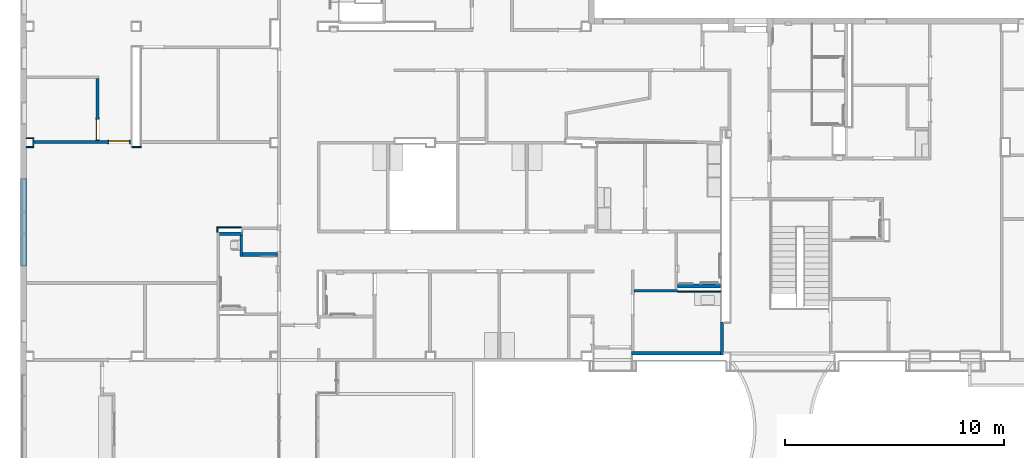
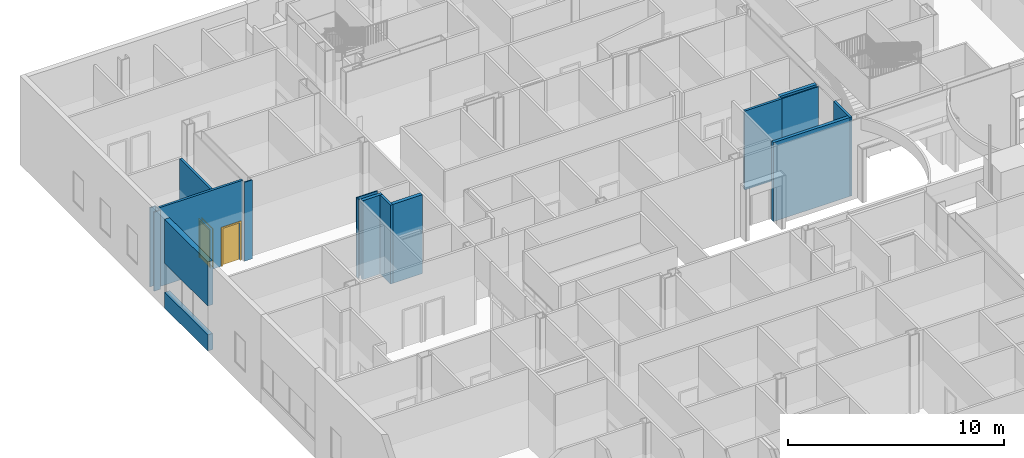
# One storey, part 30 of 82: 18 walls, 2 doors, 2 openings.
"""IFC2X3 building model written with IfcOpenShell, lengths in metres."""

from ifc_helpers import new_model, entity, si_unit, converted_unit, frame, frame_2d, origin, origin_2d_with_axis, place, context, project, spatial, polyline, rectangle, outline, extrude, source, transform, mapped, material, layer, layer_set, layer_usage, type_object, type_shapes, element, fill, save


model = new_model("IFC2X3")

# Units and contexts
model_context = context("Model", 3, precision=1e-09, world=origin())
plan_context = context("Plan", 3, precision=1e-09, world=origin())
ifc_project = project(units=[si_unit("LENGTHUNIT", "METRE"), si_unit("AREAUNIT", "SQUARE_METRE"), si_unit("VOLUMEUNIT", "CUBIC_METRE"), converted_unit("PLANEANGLEUNIT", "DEGREE", entity("IfcRatioMeasure", 0.01745329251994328), si_unit("PLANEANGLEUNIT", "RADIAN"), dimensions=[0, 0, 0, 0, 0, 0, 0]), si_unit("TIMEUNIT", "SECOND")], contexts=[model_context, plan_context])

# Site, building, storey
site_placement = place(None, origin())
site = spatial("IfcSite", under=ifc_project, at=site_placement, Name="Default", CompositionType="ELEMENT")
building_placement = place(site_placement, origin())
building = spatial("IfcBuilding", under=site, at=building_placement, CompositionType="ELEMENT")
storey_placement = place(building_placement, origin())
storey = spatial("IfcBuildingStorey", under=building, at=storey_placement, Name="First Floor", CompositionType="ELEMENT", Elevation=-3.531500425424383e-13)

# Walls
ifc_material_1 = material(Name="Plasterboard")
ifc_layer_1 = layer(ifc_material_1, 0.016)
ifc_material_2 = material(Name="Metal - Stud Layer")
ifc_layer_2 = layer(ifc_material_2, 0.092)
ifc_layer_3 = layer(ifc_material_1, 0.016)
ifc_layer_set_1 = layer_set([ifc_layer_1, ifc_layer_2, ifc_layer_3], Name="Basic Wall:Interior - Partition (92mm Stud)")
ifc_layer_usage_1 = layer_usage(ifc_layer_set_1, "AXIS2", "NEGATIVE", 0.062)
wall_1_placement = place(storey_placement, frame((-20.22800000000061, 36.58899999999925, 0.0), z_axis=(0.0, 0.0, 1.0), x_axis=(0.0, -1.0, 0.0)))
element("IfcWallStandardCase", 1, at=wall_1_placement, inside=storey, material=ifc_layer_usage_1, Name="Basic Wall:Interior - Partition (92mm Stud)", ObjectType="Basic Wall:Interior - Partition (92mm Stud)", context=model_context, shape_type="SweptSolid", body=[
    extrude(rectangle(XDim=1.516999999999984, YDim=0.1239999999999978, at=frame_2d((0.7584999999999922, 0.0), x_axis=(-1.0, 0.0))), origin(), (0.0, 0.0, 1.0), 4.46800000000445),
])
ifc_material_3 = material(Name="Insulation - Insulated Panel")
ifc_layer_4 = layer(ifc_material_3, 0.042)
ifc_material_4 = material(Name="Metal - Firring")
ifc_layer_5 = layer(ifc_material_4, 0.038)
ifc_material_5 = material(Name="Wood - Sheathing - plywood")
ifc_layer_6 = layer(ifc_material_5, 0.019)
ifc_layer_7 = layer(ifc_material_2, 0.152)
ifc_layer_8 = layer(ifc_material_1, 0.016)
ifc_layer_set_2 = layer_set([ifc_layer_4, ifc_layer_5, ifc_layer_6, ifc_layer_7, ifc_layer_8], Name="Basic Wall:Exterior - Insul Panel on Mtl. Stud")
ifc_layer_usage_2 = layer_usage(ifc_layer_set_2, "AXIS2", "NEGATIVE", 0.1335)
wall_2_placement = place(storey_placement, frame((-52.14650000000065, 39.12995228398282, 0.0), z_axis=(0.0, 0.0, 1.0), x_axis=(0.0, 1.0, 0.0)))
element("IfcWallStandardCase", 2, at=wall_2_placement, inside=storey, material=ifc_layer_usage_2, Name="Basic Wall:Exterior - Insul Panel on Mtl. Stud", ObjectType="Basic Wall:Exterior - Insul Panel on Mtl. Stud", context=model_context, shape_type="SweptSolid", body=[
    extrude(rectangle(XDim=4.0, YDim=0.2670000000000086, at=frame_2d((2.0, 0.0), x_axis=(-1.0, 0.0))), origin(), (0.0, 0.0, 1.0), 0.905),
])

# Wall, opening, door
wall_3_placement = place(storey_placement, frame((-47.16800000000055, 44.80199999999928, 0.0), z_axis=(0.0, 0.0, 1.0), x_axis=(-1.0, 0.0, 0.0)))
wall_3 = element("IfcWallStandardCase", 3, at=wall_3_placement, inside=storey, material=ifc_layer_usage_1, Name="Basic Wall:Interior - Partition (92mm Stud)", ObjectType="Basic Wall:Interior - Partition (92mm Stud)", context=model_context, shape_type="SweptSolid", body=[
    extrude(rectangle(XDim=4.502000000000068, YDim=0.1240000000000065, at=frame_2d((2.251000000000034, 0.0), x_axis=(-1.0, 0.0))), origin(), (0.0, 0.0, 1.0), 4.468000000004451),
])
opening_1_placement = place(wall_3_placement, frame((1.077000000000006, 0.06199999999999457, 0.0)))
opening_1 = element("IfcOpeningElement", 4, at=opening_1_placement, cuts=wall_3, Name="M_Single-Flush:0915 x 2134mm:0915 x 2134mm:1", ObjectType="Opening", context=model_context, shape_type="SweptSolid", body=[
    extrude(rectangle(XDim=0.9149999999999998, YDim=2.134, at=frame_2d((1.067, 0.4575), x_axis=(0.0, 1.0))), frame((0.0, 0.0, 0.0), z_axis=(0.0, -1.0, 0.0), x_axis=(0.0, 0.0, 1.0)), (0.0, 0.0, 1.0), 0.124),
])
door_style_1 = type_object("IfcDoorStyle", Name="0915 x 2134mm", ConstructionType="NOTDEFINED", OperationType="SINGLE_SWING_RIGHT", ParameterTakesPrecedence=False, Sizeable=False)
shared_shape_1 = source(origin(), model_context, "Body", "SweptSolid", [
    extrude(outline(polyline([(-0.5335, -1.123999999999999), (0.5334999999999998, -1.123999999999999), (0.5334999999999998, 1.086), (0.4574999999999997, 1.086), (0.4574999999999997, -1.048000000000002), (-0.4574999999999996, -1.048000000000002), (-0.4574999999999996, 1.086), (-0.5335, 1.086), (-0.5335, -1.123999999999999)])), frame((0.4575000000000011, 0.1239999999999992, 1.086), z_axis=(0.0, 1.0, 0.0), x_axis=(1.0, 0.0, 0.0)), (0.0, 0.0, 1.0), 0.02499999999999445),
    extrude(outline(polyline([(-1.123999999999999, -0.5334999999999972), (1.085999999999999, -0.5334999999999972), (1.085999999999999, -0.4575000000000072), (-1.048, -0.4575000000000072), (-1.048, 0.4575000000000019), (1.085999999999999, 0.4575000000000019), (1.085999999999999, 0.5335000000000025), (-1.123999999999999, 0.5335000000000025), (-1.123999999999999, -0.5334999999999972)])), frame((0.4575000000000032, -0.02500000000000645, 1.085999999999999), z_axis=(0.0, 1.0, 0.0), x_axis=(0.0, 0.0, -1.0)), (0.0, 0.0, 1.0), 0.02500000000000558),
    extrude(rectangle(XDim=0.051, YDim=0.9149999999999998, at=origin_2d_with_axis()), frame((0.4575000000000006, 0.09849999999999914, 0.0), z_axis=(0.0, 0.0, 1.0), x_axis=(0.0, 1.0, 0.0)), (0.0, 0.0, 1.0), 2.133999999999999),
])
type_shapes(door_style_1, [shared_shape_1])
door_1_placement = place(opening_1_placement, frame((0.0, 0.0, 0.0), z_axis=(0.0, 0.0, 1.0), x_axis=(-1.0, 0.0, 0.0)))
door_1 = element("IfcDoor", 5, at=door_1_placement, inside=storey, type_object=door_style_1, Name="M_Single-Flush:0915 x 2134mm:0915 x 2134mm", ObjectType="0915 x 2134mm", OverallHeight=2.134, OverallWidth=0.9149999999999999, context=model_context, shape_type="MappedRepresentation", body=[
    mapped(shared_shape_1, transform((0.0, 0.0, 0.0), scale=1.0)),
])
fill(opening_1, door_1)

# Walls
ifc_layer_9 = layer(ifc_material_2, 0.152)
ifc_layer_10 = layer(ifc_material_1, 0.016)
ifc_layer_set_3 = layer_set([ifc_layer_9, ifc_layer_10], Name="Basic Wall:Interior - Furring (152 mm Stud)")
ifc_layer_usage_3 = layer_usage(ifc_layer_set_3, "AXIS2", "POSITIVE", -0.08399999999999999)
wall_4_placement = place(storey_placement, frame((-42.13080000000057, 40.60739999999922, 0.0), z_axis=(0.0, 0.0, 1.0), x_axis=(-1.0, 0.0, 0.0)))
element("IfcWallStandardCase", 6, at=wall_4_placement, inside=storey, material=ifc_layer_usage_3, Name="Basic Wall:Interior - Furring (152 mm Stud)", ObjectType="Basic Wall:Interior - Furring (152 mm Stud)", context=model_context, shape_type="SweptSolid", body=[
    extrude(rectangle(XDim=1.055200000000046, YDim=0.1679999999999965, at=frame_2d((0.527600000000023, 0.0), x_axis=(-1.0, 0.0))), origin(), (0.0, 0.0, 1.0), 4.468000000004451),
])
wall_5_placement = place(storey_placement, frame((-52.14650000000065, 39.12995228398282, 2.54), z_axis=(0.0, 0.0, 1.0), x_axis=(0.0, 1.0, 0.0)))
element("IfcWallStandardCase", 7, at=wall_5_placement, inside=storey, material=ifc_layer_usage_2, Name="Basic Wall:Exterior - Insul Panel on Mtl. Stud", ObjectType="Basic Wall:Exterior - Insul Panel on Mtl. Stud", context=model_context, shape_type="SweptSolid", body=[
    extrude(rectangle(XDim=4.0, YDim=0.2670000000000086, at=frame_2d((2.0, 0.0), x_axis=(-1.0, 0.0))), origin(), (0.0, 0.0, 1.0), 2.48700000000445),
])
wall_6_placement = place(storey_placement, frame((-42.19280000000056, 39.57339999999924, 0.0), z_axis=(0.0, 0.0, 1.0), x_axis=(0.0, 1.0, 0.0)))
element("IfcWallStandardCase", 8, at=wall_6_placement, inside=storey, material=ifc_layer_usage_1, Name="Basic Wall:Interior - Partition (92mm Stud)", ObjectType="Basic Wall:Interior - Partition (92mm Stud)", context=model_context, shape_type="SweptSolid", body=[
    extrude(rectangle(XDim=0.9499999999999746, YDim=0.1240000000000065, at=frame_2d((0.4749999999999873, 0.0), x_axis=(-1.0, 0.0))), origin(), (0.0, 0.0, 1.0), 4.46800000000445),
])
ifc_layer_11 = layer(ifc_material_2, 0.038)
ifc_layer_12 = layer(ifc_material_1, 0.016)
ifc_layer_set_4 = layer_set([ifc_layer_11, ifc_layer_12], Name="Basic Wall:Interior - Furring (38 mm Stud)")
ifc_layer_usage_4 = layer_usage(ifc_layer_set_4, "AXIS2", "NEGATIVE", 0.027)
wall_7_placement = place(storey_placement, frame((-22.25600000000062, 37.97699999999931, 0.0)))
element("IfcWallStandardCase", 9, at=wall_7_placement, inside=storey, material=ifc_layer_usage_4, Name="Basic Wall:Interior - Furring (38 mm Stud)", ObjectType="Basic Wall:Interior - Furring (38 mm Stud)", context=model_context, shape_type="SweptSolid", body=[
    extrude(rectangle(XDim=1.966000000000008, YDim=0.05399999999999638, at=frame_2d((0.983000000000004, 0.0), x_axis=(-1.0, 0.0))), origin(), (0.0, 0.0, 1.0), 4.46800000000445),
])
wall_8_placement = place(storey_placement, frame((-22.25600000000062, 38.01199999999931, 0.0), z_axis=(0.0, 0.0, 1.0), x_axis=(-1.0, 0.0, 0.0)))
element("IfcWallStandardCase", 10, at=wall_8_placement, inside=storey, material=ifc_layer_usage_1, Name="Basic Wall:Interior - Partition (92mm Stud)", ObjectType="Basic Wall:Interior - Partition (92mm Stud)", context=model_context, shape_type="SweptSolid", body=[
    extrude(rectangle(XDim=1.989999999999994, YDim=0.1239999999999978, at=frame_2d((0.9949999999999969, 0.0), x_axis=(-1.0, 0.0))), origin(), (0.0, 0.0, 1.0), 4.46800000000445),
])
wall_9_placement = place(storey_placement, frame((-43.28300000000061, 40.8759999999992, 0.0), z_axis=(0.0, 0.0, 1.0), x_axis=(0.0, -1.0, 0.0)))
element("IfcWallStandardCase", 11, at=wall_9_placement, inside=storey, material=ifc_layer_usage_4, Name="Basic Wall:Interior - Furring (38 mm Stud)", ObjectType="Basic Wall:Interior - Furring (38 mm Stud)", context=model_context, shape_type="SweptSolid", body=[
    extrude(rectangle(XDim=0.184599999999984, YDim=0.05400000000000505, at=frame_2d((0.09229999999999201, 0.0), x_axis=(-1.0, 0.0))), origin(), (0.0, 0.0, 1.0), 4.46800000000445),
])
wall_10_placement = place(storey_placement, frame((-24.37000000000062, 35.15599999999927, 0.0)))
element("IfcWallStandardCase", 12, at=wall_10_placement, inside=storey, material=ifc_layer_usage_3, Name="Basic Wall:Interior - Furring (152 mm Stud)", ObjectType="Basic Wall:Interior - Furring (152 mm Stud)", context=model_context, shape_type="SweptSolid", body=[
    extrude(rectangle(XDim=4.080000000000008, YDim=0.1679999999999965, at=frame_2d((2.040000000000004, 0.0), x_axis=(-1.0, 0.0))), origin(), (0.0, 0.0, 1.0), 4.46800000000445),
])
wall_11_placement = place(storey_placement, frame((-51.69700000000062, 44.60399999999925, 0.0), z_axis=(0.0, 0.0, 1.0), x_axis=(0.0, 1.0, 0.0)))
element("IfcWallStandardCase", 13, at=wall_11_placement, inside=storey, material=ifc_layer_usage_4, Name="Basic Wall:Interior - Furring (38 mm Stud)", ObjectType="Basic Wall:Interior - Furring (38 mm Stud)", context=model_context, shape_type="SweptSolid", body=[
    extrude(rectangle(XDim=0.4059999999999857, YDim=0.05400000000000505, at=frame_2d((0.2029999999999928, 0.0), x_axis=(-1.0, 0.0))), origin(), (0.0, 0.0, 1.0), 4.468000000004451),
])
wall_12_placement = place(storey_placement, frame((-42.18480000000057, 40.9029999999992, 0.0), z_axis=(0.0, 0.0, 1.0), x_axis=(-1.0, 0.0, 0.0)))
element("IfcWallStandardCase", 14, at=wall_12_placement, inside=storey, material=ifc_layer_usage_4, Name="Basic Wall:Interior - Furring (38 mm Stud)", ObjectType="Basic Wall:Interior - Furring (38 mm Stud)", context=model_context, shape_type="SweptSolid", body=[
    extrude(rectangle(XDim=1.12520000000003, YDim=0.05400000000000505, at=frame_2d((0.5626000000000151, 0.0), x_axis=(-1.0, 0.0))), origin(), (0.0, 0.0, 1.0), 4.46800000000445),
])

# Wall, opening, door
wall_13_placement = place(storey_placement, frame((-48.76700000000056, 47.70599999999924, 0.0), z_axis=(0.0, 0.0, 1.0), x_axis=(0.0, -1.0, 0.0)))
wall_13 = element("IfcWallStandardCase", 15, at=wall_13_placement, inside=storey, material=ifc_layer_usage_1, Name="Basic Wall:Interior - Partition (92mm Stud)", ObjectType="Basic Wall:Interior - Partition (92mm Stud)", context=model_context, shape_type="SweptSolid", body=[
    extrude(rectangle(XDim=2.841999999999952, YDim=0.1240000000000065, at=frame_2d((1.420999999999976, 0.0), x_axis=(-1.0, 0.0))), origin(), (0.0, 0.0, 1.0), 4.46800000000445),
])
opening_2_placement = place(wall_13_placement, frame((2.781999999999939, 0.06199999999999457, 0.0)))
opening_2 = element("IfcOpeningElement", 16, at=opening_2_placement, cuts=wall_13, Name="M_Single-Flush:0915 x 2134mm:0915 x 2134mm:1", ObjectType="Opening", context=model_context, shape_type="SweptSolid", body=[
    extrude(rectangle(XDim=0.9149999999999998, YDim=2.134, at=frame_2d((1.067, 0.4574999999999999), x_axis=(0.0, -1.0))), frame((0.0, 0.0, 0.0), z_axis=(0.0, -1.0, 0.0), x_axis=(0.0, 0.0, 1.0)), (0.0, 0.0, 1.0), 0.124),
])
door_style_2 = type_object("IfcDoorStyle", Name="0915 x 2134mm", ConstructionType="NOTDEFINED", OperationType="SINGLE_SWING_LEFT", ParameterTakesPrecedence=False, Sizeable=False)
shared_shape_2 = source(origin(), model_context, "Body", "SweptSolid", [
    extrude(outline(polyline([(-0.5335, -1.123999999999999), (0.5334999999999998, -1.123999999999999), (0.5334999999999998, 1.086), (0.4574999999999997, 1.086), (0.4574999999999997, -1.048000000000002), (-0.4574999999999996, -1.048000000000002), (-0.4574999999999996, 1.086), (-0.5335, 1.086), (-0.5335, -1.123999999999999)])), frame((0.4575000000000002, 0.1489999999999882, 1.086), z_axis=(0.0, -1.0, 0.0), x_axis=(-1.0, 0.0, 0.0)), (0.0, 0.0, 1.0), 0.02499999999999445),
    extrude(outline(polyline([(-1.123999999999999, -0.5334999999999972), (1.085999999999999, -0.5334999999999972), (1.085999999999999, -0.4575000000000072), (-1.048, -0.4575000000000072), (-1.048, 0.4575000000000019), (1.085999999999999, 0.4575000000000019), (1.085999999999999, 0.5335000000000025), (-1.123999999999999, 0.5335000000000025), (-1.123999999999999, -0.5334999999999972)])), frame((0.4574999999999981, 0.0, 1.085999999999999), z_axis=(0.0, -1.0, 0.0), x_axis=(0.0, 0.0, -1.0)), (0.0, 0.0, 1.0), 0.02500000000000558),
    extrude(rectangle(XDim=0.9149999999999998, YDim=0.051, at=origin_2d_with_axis()), frame((0.4575000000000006, 0.09849999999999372, 0.0)), (0.0, 0.0, 1.0), 2.133999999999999),
])
type_shapes(door_style_2, [shared_shape_2])
door_2_placement = place(opening_2_placement, frame((0.0, 0.0, 0.0), z_axis=(0.0, 0.0, 1.0), x_axis=(-1.0, 0.0, 0.0)))
door_2 = element("IfcDoor", 17, at=door_2_placement, inside=storey, type_object=door_style_2, Name="M_Single-Flush:0915 x 2134mm:0915 x 2134mm", ObjectType="0915 x 2134mm", OverallHeight=2.134, OverallWidth=0.9149999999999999, context=model_context, shape_type="MappedRepresentation", body=[
    mapped(shared_shape_2, transform((0.0, 0.0, 0.0), scale=1.0)),
])
fill(opening_2, door_2)

# Walls
ifc_layer_13 = layer(ifc_material_1, 0.016)
ifc_layer_14 = layer(ifc_material_2, 0.152)
ifc_layer_15 = layer(ifc_material_1, 0.016)
ifc_layer_set_5 = layer_set([ifc_layer_13, ifc_layer_14, ifc_layer_15], Name="Basic Wall:Interior - Plumbing (152mm Stud)")
ifc_layer_usage_5 = layer_usage(ifc_layer_set_5, "AXIS2", "NEGATIVE", 0.092)
wall_14_placement = place(storey_placement, frame((-40.53700000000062, 39.66539999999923, 0.0), z_axis=(0.0, 0.0, 1.0), x_axis=(-1.0, 0.0, 0.0)))
element("IfcWallStandardCase", 18, at=wall_14_placement, inside=storey, material=ifc_layer_usage_5, Name="Basic Wall:Interior - Plumbing (152mm Stud)", ObjectType="Basic Wall:Interior - Plumbing (152mm Stud)", context=model_context, shape_type="SweptSolid", body=[
    extrude(rectangle(XDim=1.593799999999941, YDim=0.1839999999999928, at=frame_2d((0.7968999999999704, 0.0), x_axis=(-1.0, 0.0))), origin(), (0.0, 0.0, 1.0), 4.46800000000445),
])
wall_15_placement = place(storey_placement, frame((-52.01300000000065, 44.57699999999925, 0.0)))
element("IfcWallStandardCase", 19, at=wall_15_placement, inside=storey, material=ifc_layer_usage_4, Name="Basic Wall:Interior - Furring (38 mm Stud)", ObjectType="Basic Wall:Interior - Furring (38 mm Stud)", context=model_context, shape_type="SweptSolid", body=[
    extrude(rectangle(XDim=0.3430000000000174, YDim=0.05400000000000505, at=frame_2d((0.1715000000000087, 0.0), x_axis=(-1.0, 0.0))), origin(), (0.0, 0.0, 1.0), 4.46800000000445),
])
wall_16_placement = place(storey_placement, frame((-22.25600000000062, 38.23799999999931, 0.0)))
element("IfcWallStandardCase", 20, at=wall_16_placement, inside=storey, material=ifc_layer_usage_5, Name="Basic Wall:Interior - Plumbing (152mm Stud)", ObjectType="Basic Wall:Interior - Plumbing (152mm Stud)", context=model_context, shape_type="SweptSolid", body=[
    extrude(rectangle(XDim=1.966000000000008, YDim=0.1840000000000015, at=frame_2d((0.983000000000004, 0.0), x_axis=(-1.0, 0.0))), origin(), (0.0, 0.0, 1.0), 4.46800000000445),
])
wall_17_placement = place(storey_placement, frame((-47.17600000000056, 44.57699999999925, 0.0)))
element("IfcWallStandardCase", 21, at=wall_17_placement, inside=storey, material=ifc_layer_usage_4, Name="Basic Wall:Interior - Furring (38 mm Stud)", ObjectType="Basic Wall:Interior - Furring (38 mm Stud)", context=model_context, shape_type="SweptSolid", body=[
    extrude(rectangle(XDim=0.4059999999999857, YDim=0.05400000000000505, at=frame_2d((0.2029999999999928, 0.0), x_axis=(-1.0, 0.0))), origin(), (0.0, 0.0, 1.0), 4.46800000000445),
])
wall_18_placement = place(storey_placement, frame((-51.72400000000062, 44.98299999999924, 0.0), z_axis=(0.0, 0.0, 1.0), x_axis=(-1.0, 0.0, 0.0)))
element("IfcWallStandardCase", 22, at=wall_18_placement, inside=storey, material=ifc_layer_usage_4, Name="Basic Wall:Interior - Furring (38 mm Stud)", ObjectType="Basic Wall:Interior - Furring (38 mm Stud)", context=model_context, shape_type="SweptSolid", body=[
    extrude(rectangle(XDim=0.2890000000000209, YDim=0.05400000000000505, at=frame_2d((0.1445000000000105, 0.0), x_axis=(-1.0, 0.0))), origin(), (0.0, 0.0, 1.0), 4.46800000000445),
])

save(model, "model.ifc")
